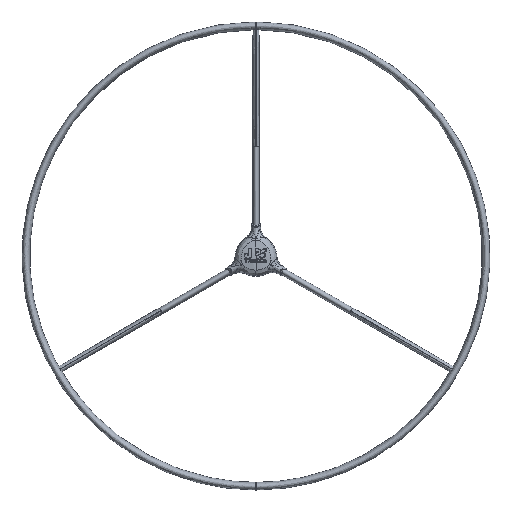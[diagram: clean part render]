
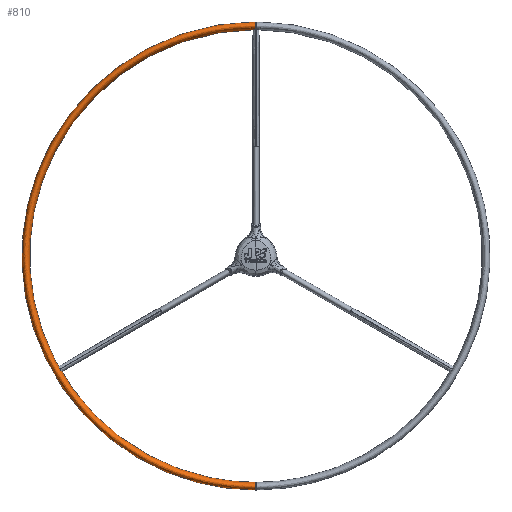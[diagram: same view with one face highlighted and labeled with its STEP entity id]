
A CAD part, front view. The second image highlights one B-rep face of the part: STEP entity #810.
In plain terms, the highlighted free-form (B-spline) face has degree [2, 2] with [5, 5] control points.
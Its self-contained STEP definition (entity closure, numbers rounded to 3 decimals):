
#383=(
BOUNDED_CURVE()
B_SPLINE_CURVE(2,(#27583,#27584,#27585,#27586,#27587),.UNSPECIFIED.,.F.,
.F.)
B_SPLINE_CURVE_WITH_KNOTS((3,2,3),(0.,1.571,3.142),
.UNSPECIFIED.)
CURVE()
GEOMETRIC_REPRESENTATION_ITEM()
RATIONAL_B_SPLINE_CURVE((1.,0.707,1.,0.707,1.))
REPRESENTATION_ITEM('')
);
#385=(
BOUNDED_CURVE()
B_SPLINE_CURVE(2,(#27641,#27642,#27643,#27644,#27645),.UNSPECIFIED.,.F.,
.F.)
B_SPLINE_CURVE_WITH_KNOTS((3,2,3),(0.,3.142,6.283),
.UNSPECIFIED.)
CURVE()
GEOMETRIC_REPRESENTATION_ITEM()
RATIONAL_B_SPLINE_CURVE((1.,0.707,1.,0.707,1.))
REPRESENTATION_ITEM('')
);
#386=(
BOUNDED_CURVE()
B_SPLINE_CURVE(2,(#27646,#27647,#27648,#27649,#27650),.UNSPECIFIED.,.F.,
.F.)
B_SPLINE_CURVE_WITH_KNOTS((3,2,3),(0.,1.571,3.142),
.UNSPECIFIED.)
CURVE()
GEOMETRIC_REPRESENTATION_ITEM()
RATIONAL_B_SPLINE_CURVE((1.,0.707,1.,0.707,1.))
REPRESENTATION_ITEM('')
);
#388=(
BOUNDED_CURVE()
B_SPLINE_CURVE(2,(#27704,#27705,#27706,#27707,#27708),.UNSPECIFIED.,.F.,
.F.)
B_SPLINE_CURVE_WITH_KNOTS((3,2,3),(0.,3.142,6.283),
.UNSPECIFIED.)
CURVE()
GEOMETRIC_REPRESENTATION_ITEM()
RATIONAL_B_SPLINE_CURVE((1.,0.707,1.,0.707,1.))
REPRESENTATION_ITEM('')
);
#810=ADVANCED_FACE('',(#1062),#3755,.T.);
#1062=FACE_OUTER_BOUND('',#1312,.T.);
#1312=EDGE_LOOP('',(#2456,#2457,#2458,#2459));
#2456=ORIENTED_EDGE('',*,*,#3097,.F.);
#2457=ORIENTED_EDGE('',*,*,#3101,.T.);
#2458=ORIENTED_EDGE('',*,*,#3102,.T.);
#2459=ORIENTED_EDGE('',*,*,#3106,.F.);
#3097=EDGE_CURVE('',#3556,#3562,#383,.T.);
#3101=EDGE_CURVE('',#3556,#3559,#385,.T.);
#3102=EDGE_CURVE('',#3559,#3563,#386,.T.);
#3106=EDGE_CURVE('',#3562,#3563,#388,.T.);
#3556=VERTEX_POINT('',#28017);
#3559=VERTEX_POINT('',#28020);
#3562=VERTEX_POINT('',#28023);
#3563=VERTEX_POINT('',#28024);
#3755=(
BOUNDED_SURFACE()
B_SPLINE_SURFACE(2,2,((#27992,#27993,#27994,#27995,#27996),(#27997,#27998,
#27999,#28000,#28001),(#28002,#28003,#28004,#28005,#28006),(#28007,#28008,
#28009,#28010,#28011),(#28012,#28013,#28014,#28015,#28016)),.UNSPECIFIED.,
.F.,.F.,.F.)
B_SPLINE_SURFACE_WITH_KNOTS((3,2,3),(3,2,3),(0.,3.142,6.283),
(0.,1.571,3.142),.UNSPECIFIED.)
GEOMETRIC_REPRESENTATION_ITEM()
RATIONAL_B_SPLINE_SURFACE(((1.,0.707,1.,0.707,1.),
(0.707,0.5,0.707,0.5,0.707),(1.,0.707,
1.,0.707,1.),(0.707,0.5,0.707,0.5,0.707),
(1.,0.707,1.,0.707,1.)))
REPRESENTATION_ITEM('')
SURFACE()
);
#27583=CARTESIAN_POINT('',(0.,-24.,550.));
#27584=CARTESIAN_POINT('',(0.,-39.5,550.));
#27585=CARTESIAN_POINT('',(0.,-39.5,541.));
#27586=CARTESIAN_POINT('',(0.,-39.5,532.));
#27587=CARTESIAN_POINT('',(0.,-24.,532.));
#27641=CARTESIAN_POINT('',(0.,-24.,550.));
#27642=CARTESIAN_POINT('',(-550.,-24.,550.));
#27643=CARTESIAN_POINT('',(-550.,-24.,0.));
#27644=CARTESIAN_POINT('',(-550.,-24.,-550.));
#27645=CARTESIAN_POINT('',(0.,-24.,-550.));
#27646=CARTESIAN_POINT('',(0.,-24.,-550.));
#27647=CARTESIAN_POINT('',(0.,-39.5,-550.));
#27648=CARTESIAN_POINT('',(0.,-39.5,-541.));
#27649=CARTESIAN_POINT('',(0.,-39.5,-532.));
#27650=CARTESIAN_POINT('',(0.,-24.,-532.));
#27704=CARTESIAN_POINT('',(0.,-24.,532.));
#27705=CARTESIAN_POINT('',(-532.,-24.,532.));
#27706=CARTESIAN_POINT('',(-532.,-24.,0.));
#27707=CARTESIAN_POINT('',(-532.,-24.,-532.));
#27708=CARTESIAN_POINT('',(0.,-24.,-532.));
#27992=CARTESIAN_POINT('',(0.,-24.,550.));
#27993=CARTESIAN_POINT('',(0.,-39.5,550.));
#27994=CARTESIAN_POINT('',(0.,-39.5,541.));
#27995=CARTESIAN_POINT('',(0.,-39.5,532.));
#27996=CARTESIAN_POINT('',(0.,-24.,532.));
#27997=CARTESIAN_POINT('',(-550.,-24.,550.));
#27998=CARTESIAN_POINT('',(-550.,-39.5,550.));
#27999=CARTESIAN_POINT('',(-541.,-39.5,541.));
#28000=CARTESIAN_POINT('',(-532.,-39.5,532.));
#28001=CARTESIAN_POINT('',(-532.,-24.,532.));
#28002=CARTESIAN_POINT('',(-550.,-24.,0.));
#28003=CARTESIAN_POINT('',(-550.,-39.5,0.));
#28004=CARTESIAN_POINT('',(-541.,-39.5,0.));
#28005=CARTESIAN_POINT('',(-532.,-39.5,0.));
#28006=CARTESIAN_POINT('',(-532.,-24.,0.));
#28007=CARTESIAN_POINT('',(-550.,-24.,-550.));
#28008=CARTESIAN_POINT('',(-550.,-39.5,-550.));
#28009=CARTESIAN_POINT('',(-541.,-39.5,-541.));
#28010=CARTESIAN_POINT('',(-532.,-39.5,-532.));
#28011=CARTESIAN_POINT('',(-532.,-24.,-532.));
#28012=CARTESIAN_POINT('',(0.,-24.,-550.));
#28013=CARTESIAN_POINT('',(0.,-39.5,-550.));
#28014=CARTESIAN_POINT('',(0.,-39.5,-541.));
#28015=CARTESIAN_POINT('',(0.,-39.5,-532.));
#28016=CARTESIAN_POINT('',(0.,-24.,-532.));
#28017=CARTESIAN_POINT('',(0.,-24.,550.));
#28020=CARTESIAN_POINT('',(0.,-24.,-550.));
#28023=CARTESIAN_POINT('',(0.,-24.,532.));
#28024=CARTESIAN_POINT('',(0.,-24.,-532.));
